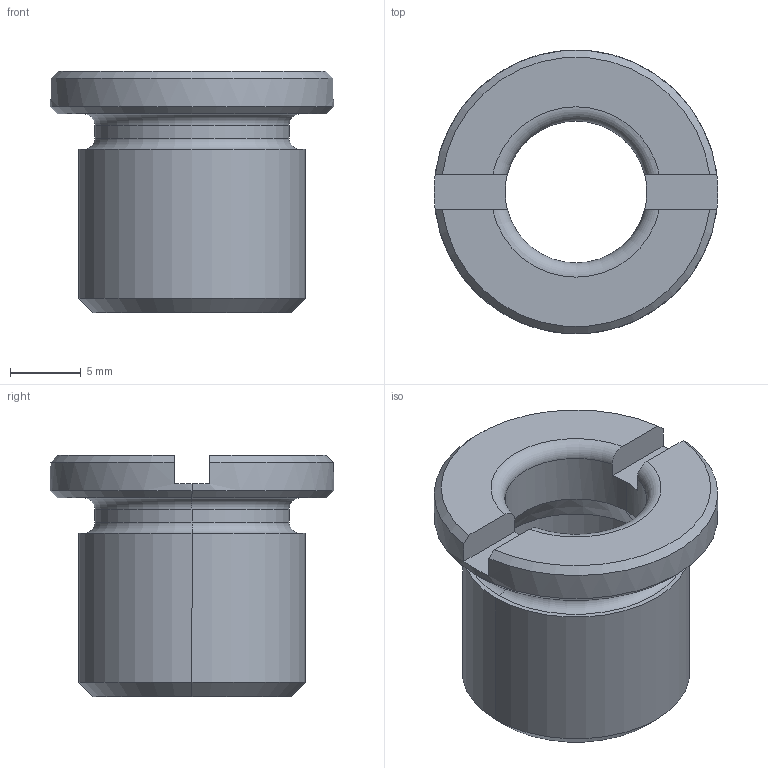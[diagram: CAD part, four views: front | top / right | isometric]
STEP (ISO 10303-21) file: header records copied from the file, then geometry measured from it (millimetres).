
FILE_DESCRIPTION (( 'STEP AP203' ), '1' );
FILE_NAME ('qcbu1012-m16sus.STEP', '2021-10-21T08:18:53', ( '' ), ( '' ), 'SwSTEP 2.0', 'SolidWorks 2020', '' );
FILE_SCHEMA (( 'CONFIG_CONTROL_DESIGN' ));
Length unit declared in the file: millimetre
Products named in the file (1): qcbu1012-m16sus
Bounding box: 20 x 20 x 17 mm (x, y, z)
Volume: 1702.4 mm3; surface area: 1956.6 mm2
Topology: 1 solids, 1 shells, 35 faces, 84 edges, 52 vertices
Faces by surface type: plane 11, cylinder 10, cone 8, torus 6
Entity records: 1135 total; most frequent: CARTESIAN_POINT 216, DIRECTION 192, ORIENTED_EDGE 168, EDGE_CURVE 84, AXIS2_PLACEMENT_3D 80, VERTEX_POINT 52, CIRCLE 44, EDGE_LOOP 38
